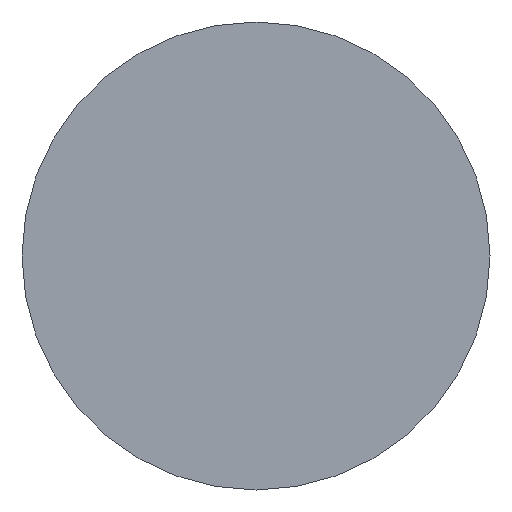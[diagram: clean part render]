
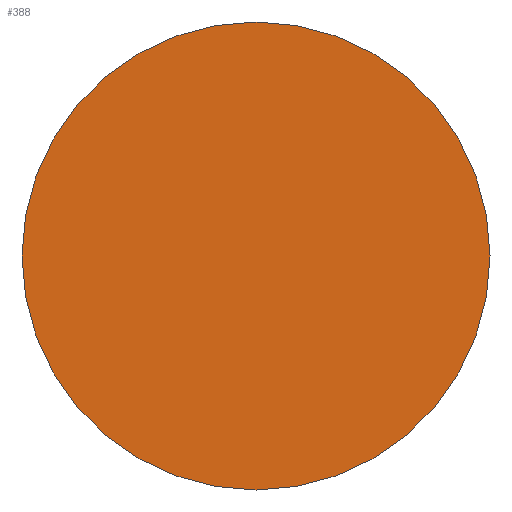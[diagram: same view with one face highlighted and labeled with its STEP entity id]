
A CAD part, left-side view. The second image highlights one B-rep face of the part: STEP entity #388.
In plain terms, the highlighted planar face has unit normal (-1, 0, 0).
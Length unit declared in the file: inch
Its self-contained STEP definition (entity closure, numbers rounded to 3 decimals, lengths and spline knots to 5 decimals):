
#38 = EDGE_CURVE ( 'NONE', #243, #47, #244, .T. ) ;
#41 = EDGE_CURVE ( 'NONE', #47, #243, #369, .T. ) ;
#47 = VERTEX_POINT ( 'NONE', #438 ) ;
#67 = AXIS2_PLACEMENT_3D ( 'NONE', #415, #414, #417 ) ;
#69 = AXIS2_PLACEMENT_3D ( 'NONE', #421, #446, #445 ) ;
#107 = AXIS2_PLACEMENT_3D ( 'NONE', #153, #154, #155 ) ;
#144 = PLANE ( 'NONE',  #107 ) ;
#153 = CARTESIAN_POINT ( 'NONE',  ( -0.81, 0.7635, 0. ) ) ;
#154 = DIRECTION ( 'NONE',  ( -1., 0., 0. ) ) ;
#155 = DIRECTION ( 'NONE',  ( 0., 0., 1. ) ) ;
#217 = FACE_OUTER_BOUND ( 'NONE', #309, .T. ) ;
#243 = VERTEX_POINT ( 'NONE', #477 ) ;
#244 = CIRCLE ( 'NONE', #67, 0.7635 ) ;
#261 = ORIENTED_EDGE ( 'NONE', *, *, #38, .F. ) ;
#262 = ORIENTED_EDGE ( 'NONE', *, *, #41, .F. ) ;
#309 = EDGE_LOOP ( 'NONE', ( #261, #262 ) ) ;
#369 = CIRCLE ( 'NONE', #69, 0.7635 ) ;
#388 = ADVANCED_FACE ( 'NONE', ( #217 ), #144, .T. ) ;
#414 = DIRECTION ( 'NONE',  ( 1., 0., 0. ) ) ;
#415 = CARTESIAN_POINT ( 'NONE',  ( -0.81, 0., 0. ) ) ;
#417 = DIRECTION ( 'NONE',  ( 0., 0., -1. ) ) ;
#421 = CARTESIAN_POINT ( 'NONE',  ( -0.81, 0., 0. ) ) ;
#438 = CARTESIAN_POINT ( 'NONE',  ( -0.81, 0., 0.7635 ) ) ;
#445 = DIRECTION ( 'NONE',  ( 0., 0., -1. ) ) ;
#446 = DIRECTION ( 'NONE',  ( 1., 0., 0. ) ) ;
#477 = CARTESIAN_POINT ( 'NONE',  ( -0.81, 0., -0.7635 ) ) ;
